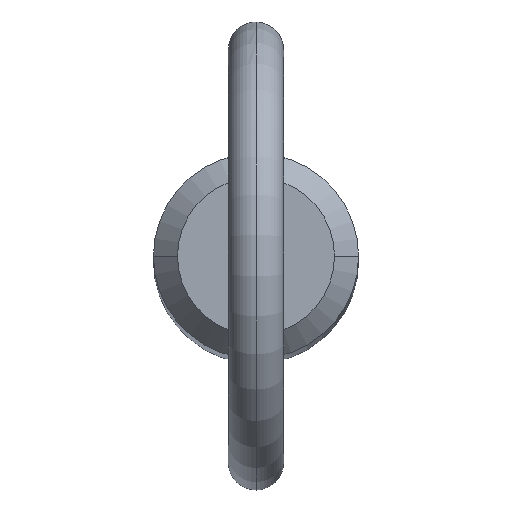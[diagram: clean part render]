
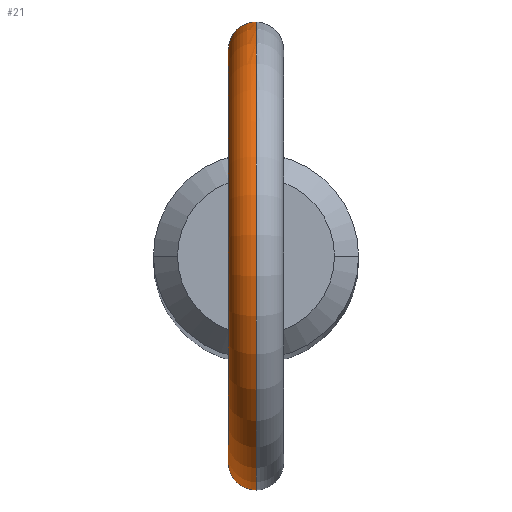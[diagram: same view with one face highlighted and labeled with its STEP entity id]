
A CAD part, top view. The second image highlights one B-rep face of the part: STEP entity #21.
In plain terms, the highlighted toroidal (fillet/blend) face has major radius 11.2 mm and minor radius 1.5 mm.
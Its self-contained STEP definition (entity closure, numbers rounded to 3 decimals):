
#12 = FACE_OUTER_BOUND ( 'NONE', #95, .T. ) ;
#17 = AXIS2_PLACEMENT_3D ( 'NONE', #161, #454, #448 ) ;
#20 = CARTESIAN_POINT ( 'NONE',  ( -0.976, -5.464, 133.631 ) ) ;
#21 = ADVANCED_FACE ( 'NONE', ( #12 ), #498, .T. ) ;
#28 = VERTEX_POINT ( 'NONE', #195 ) ;
#32 = DIRECTION ( 'NONE',  ( 0., 0., -1. ) ) ;
#36 = CARTESIAN_POINT ( 'NONE',  ( 0., 5.55, 133.277 ) ) ;
#41 = CARTESIAN_POINT ( 'NONE',  ( 0., -5.55, 136.745 ) ) ;
#55 = VERTEX_POINT ( 'NONE', #315 ) ;
#57 = CARTESIAN_POINT ( 'NONE',  ( 0., 5.55, 136.745 ) ) ;
#74 = EDGE_CURVE ( 'NONE', #438, #28, #258, .T. ) ;
#76 = CARTESIAN_POINT ( 'NONE',  ( -0.213, 5.55, 136.745 ) ) ;
#77 = DIRECTION ( 'NONE',  ( 1., 0., 0. ) ) ;
#82 = DIRECTION ( 'NONE',  ( 0., 0., -1. ) ) ;
#89 = VERTEX_POINT ( 'NONE', #477 ) ;
#95 = EDGE_LOOP ( 'NONE', ( #262, #212, #202, #236 ) ) ;
#103 = CARTESIAN_POINT ( 'NONE',  ( -1.455, -5.356, 134.436 ) ) ;
#113 = CIRCLE ( 'NONE', #17, 12.7 ) ;
#115 = CARTESIAN_POINT ( 'NONE',  ( 0., 5.55, 136.745 ) ) ;
#117 = AXIS2_PLACEMENT_3D ( 'NONE', #154, #77, #82 ) ;
#118 = CARTESIAN_POINT ( 'NONE',  ( -0.425, 5.537, 133.321 ) ) ;
#120 = CARTESIAN_POINT ( 'NONE',  ( -0.416, -5.535, 136.667 ) ) ;
#122 = EDGE_CURVE ( 'NONE', #438, #89, #229, .T. ) ;
#147 = CARTESIAN_POINT ( 'NONE',  ( -1.294, -5.398, 135.786 ) ) ;
#154 = CARTESIAN_POINT ( 'NONE',  ( 0., 0., 144.7 ) ) ;
#156 = CARTESIAN_POINT ( 'NONE',  ( -0.211, -5.547, 136.729 ) ) ;
#157 = CARTESIAN_POINT ( 'NONE',  ( -0.106, -5.55, 136.745 ) ) ;
#161 = CARTESIAN_POINT ( 'NONE',  ( 0., 0., 144.7 ) ) ;
#182 = CARTESIAN_POINT ( 'NONE',  ( -0.523, -5.526, 133.366 ) ) ;
#183 = B_SPLINE_CURVE_WITH_KNOTS ( 'NONE', 3,
 ( #338, #342, #259, #510, #182, #256, #302, #20, #462, #217, #512, #103, #383, #465, #405, #317, #194, #147, #402, #490, #306, #351, #120, #156, #157, #41 ),
 .UNSPECIFIED., .F., .F.,
 ( 4, 2, 2, 2, 2, 2, 2, 2, 2, 2, 2, 2, 4 ),
 ( 0.01, 0.01, 0.01, 0.011, 0.011, 0.012, 0.012, 0.012, 0.013, 0.013, 0.014, 0.014, 0.015 ),
 .UNSPECIFIED. ) ;
#191 = CARTESIAN_POINT ( 'NONE',  ( -1.509, 5.341, 134.755 ) ) ;
#192 = CARTESIAN_POINT ( 'NONE',  ( -0.976, 5.464, 133.631 ) ) ;
#194 = CARTESIAN_POINT ( 'NONE',  ( -1.44, -5.36, 135.387 ) ) ;
#195 = CARTESIAN_POINT ( 'NONE',  ( 0., -5.55, 136.745 ) ) ;
#202 = ORIENTED_EDGE ( 'NONE', *, *, #74, .T. ) ;
#212 = ORIENTED_EDGE ( 'NONE', *, *, #122, .F. ) ;
#217 = CARTESIAN_POINT ( 'NONE',  ( -1.26, -5.407, 133.942 ) ) ;
#229 = B_SPLINE_CURVE_WITH_KNOTS ( 'NONE', 3,
 ( #115, #76, #527, #483, #361, #403, #235, #191, #356, #400, #395, #232, #192, #525, #231, #118, #314, #36 ),
 .UNSPECIFIED., .F., .F.,
 ( 4, 2, 2, 2, 2, 2, 2, 2, 4 ),
 ( 0.006, 0.006, 0.007, 0.008, 0.009, 0.009, 0.01, 0.01, 0.011 ),
 .UNSPECIFIED. ) ;
#231 = CARTESIAN_POINT ( 'NONE',  ( -0.716, 5.504, 133.452 ) ) ;
#232 = CARTESIAN_POINT ( 'NONE',  ( -1.055, 5.449, 133.705 ) ) ;
#235 = CARTESIAN_POINT ( 'NONE',  ( -1.474, 5.351, 135.385 ) ) ;
#236 = ORIENTED_EDGE ( 'NONE', *, *, #486, .F. ) ;
#242 = EDGE_CURVE ( 'NONE', #89, #55, #113, .T. ) ;
#256 = CARTESIAN_POINT ( 'NONE',  ( -0.716, -5.504, 133.452 ) ) ;
#258 = CIRCLE ( 'NONE', #117, 9.7 ) ;
#259 = CARTESIAN_POINT ( 'NONE',  ( -0.212, -5.547, 133.288 ) ) ;
#262 = ORIENTED_EDGE ( 'NONE', *, *, #242, .F. ) ;
#268 = CARTESIAN_POINT ( 'NONE',  ( 0., 0., 144.7 ) ) ;
#302 = CARTESIAN_POINT ( 'NONE',  ( -0.807, -5.492, 133.505 ) ) ;
#306 = CARTESIAN_POINT ( 'NONE',  ( -0.785, -5.497, 136.458 ) ) ;
#314 = CARTESIAN_POINT ( 'NONE',  ( -0.214, 5.55, 133.277 ) ) ;
#315 = CARTESIAN_POINT ( 'NONE',  ( 0., -5.55, 133.277 ) ) ;
#317 = CARTESIAN_POINT ( 'NONE',  ( -1.485, -5.348, 135.179 ) ) ;
#338 = CARTESIAN_POINT ( 'NONE',  ( 0., -5.55, 133.277 ) ) ;
#342 = CARTESIAN_POINT ( 'NONE',  ( -0.107, -5.55, 133.277 ) ) ;
#351 = CARTESIAN_POINT ( 'NONE',  ( -0.513, -5.527, 136.623 ) ) ;
#356 = CARTESIAN_POINT ( 'NONE',  ( -1.486, 5.348, 134.538 ) ) ;
#361 = CARTESIAN_POINT ( 'NONE',  ( -0.941, 5.471, 136.307 ) ) ;
#383 = CARTESIAN_POINT ( 'NONE',  ( -1.477, -5.35, 134.542 ) ) ;
#392 = DIRECTION ( 'NONE',  ( 1., 0., 0. ) ) ;
#395 = CARTESIAN_POINT ( 'NONE',  ( -1.26, 5.407, 133.943 ) ) ;
#400 = CARTESIAN_POINT ( 'NONE',  ( -1.363, 5.38, 134.134 ) ) ;
#402 = CARTESIAN_POINT ( 'NONE',  ( -1.195, -5.421, 135.971 ) ) ;
#403 = CARTESIAN_POINT ( 'NONE',  ( -1.321, 5.397, 135.804 ) ) ;
#405 = CARTESIAN_POINT ( 'NONE',  ( -1.503, -5.343, 134.859 ) ) ;
#438 = VERTEX_POINT ( 'NONE', #57 ) ;
#448 = DIRECTION ( 'NONE',  ( 0., 0., -1. ) ) ;
#453 = AXIS2_PLACEMENT_3D ( 'NONE', #268, #392, #32 ) ;
#454 = DIRECTION ( 'NONE',  ( 1., 0., 0. ) ) ;
#462 = CARTESIAN_POINT ( 'NONE',  ( -1.054, -5.449, 133.704 ) ) ;
#465 = CARTESIAN_POINT ( 'NONE',  ( -1.5, -5.343, 134.753 ) ) ;
#477 = CARTESIAN_POINT ( 'NONE',  ( 0., 5.55, 133.277 ) ) ;
#483 = CARTESIAN_POINT ( 'NONE',  ( -0.786, 5.497, 136.457 ) ) ;
#486 = EDGE_CURVE ( 'NONE', #55, #28, #183, .T. ) ;
#490 = CARTESIAN_POINT ( 'NONE',  ( -0.939, -5.472, 136.31 ) ) ;
#498 = TOROIDAL_SURFACE ( 'NONE', #453, 11.2, 1.5 ) ;
#510 = CARTESIAN_POINT ( 'NONE',  ( -0.42, -5.535, 133.332 ) ) ;
#512 = CARTESIAN_POINT ( 'NONE',  ( -1.362, -5.381, 134.132 ) ) ;
#525 = CARTESIAN_POINT ( 'NONE',  ( -0.807, 5.492, 133.506 ) ) ;
#527 = CARTESIAN_POINT ( 'NONE',  ( -0.425, 5.537, 136.677 ) ) ;
